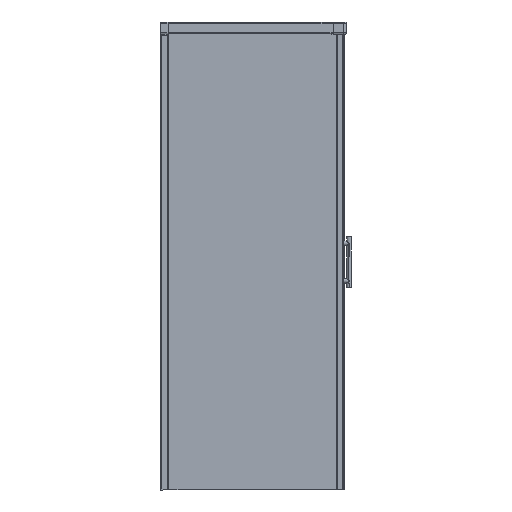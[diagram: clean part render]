
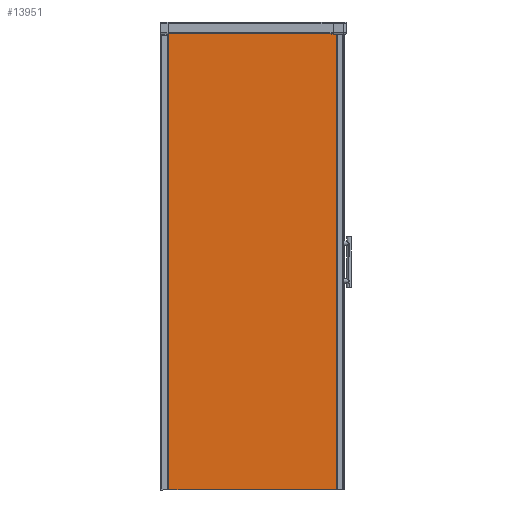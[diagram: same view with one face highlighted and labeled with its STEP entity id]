
A CAD part, front view. The second image highlights one B-rep face of the part: STEP entity #13951.
In plain terms, the highlighted planar face has unit normal (0, -1, 0).
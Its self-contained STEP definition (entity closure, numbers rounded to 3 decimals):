
#905=FACE_OUTER_BOUND($,#1659,.T.);
#1659=EDGE_LOOP($,(#10720,#10721,#10722,#10723,#10724,#10725,#10726,#10727,
#10728,#10729,#10730,#10731));
#2911=LINE($,#20620,#4281);
#3334=LINE($,#22126,#4704);
#3345=LINE($,#22154,#4715);
#3346=LINE($,#22157,#4716);
#3347=LINE($,#22159,#4717);
#3348=LINE($,#22161,#4718);
#3349=LINE($,#22163,#4719);
#3350=LINE($,#22165,#4720);
#3351=LINE($,#22167,#4721);
#3352=LINE($,#22169,#4722);
#3353=LINE($,#22171,#4723);
#3354=LINE($,#22172,#4724);
#4281=VECTOR($,#16553,721.266);
#4704=VECTOR($,#17748,1948.3);
#4715=VECTOR($,#17773,15.216);
#4716=VECTOR($,#17776,0.1);
#4717=VECTOR($,#17777,5.2);
#4718=VECTOR($,#17778,2.);
#4719=VECTOR($,#17779,699.55);
#4720=VECTOR($,#17780,0.5);
#4721=VECTOR($,#17781,1.693);
#4722=VECTOR($,#17782,4.9);
#4723=VECTOR($,#17783,0.393);
#4724=VECTOR($,#17784,1945.);
#5537=VERTEX_POINT($,#20617);
#5538=VERTEX_POINT($,#20619);
#5963=VERTEX_POINT($,#22124);
#5973=VERTEX_POINT($,#22152);
#5974=VERTEX_POINT($,#22156);
#5975=VERTEX_POINT($,#22158);
#5976=VERTEX_POINT($,#22160);
#5977=VERTEX_POINT($,#22162);
#5978=VERTEX_POINT($,#22164);
#5979=VERTEX_POINT($,#22166);
#5980=VERTEX_POINT($,#22168);
#5981=VERTEX_POINT($,#22170);
#7004=EDGE_CURVE($,#5537,#5538,#2911,.T.);
#7641=EDGE_CURVE($,#5963,#5537,#3334,.T.);
#7655=EDGE_CURVE($,#5973,#5963,#3345,.T.);
#7656=EDGE_CURVE($,#5974,#5973,#3346,.T.);
#7657=EDGE_CURVE($,#5975,#5974,#3347,.T.);
#7658=EDGE_CURVE($,#5976,#5975,#3348,.T.);
#7659=EDGE_CURVE($,#5977,#5976,#3349,.T.);
#7660=EDGE_CURVE($,#5977,#5978,#3350,.T.);
#7661=EDGE_CURVE($,#5978,#5979,#3351,.T.);
#7662=EDGE_CURVE($,#5979,#5980,#3352,.T.);
#7663=EDGE_CURVE($,#5980,#5981,#3353,.T.);
#7664=EDGE_CURVE($,#5981,#5538,#3354,.T.);
#10720=ORIENTED_EDGE($,*,*,#7641,.F.);
#10721=ORIENTED_EDGE($,*,*,#7655,.F.);
#10722=ORIENTED_EDGE($,*,*,#7656,.F.);
#10723=ORIENTED_EDGE($,*,*,#7657,.F.);
#10724=ORIENTED_EDGE($,*,*,#7658,.F.);
#10725=ORIENTED_EDGE($,*,*,#7659,.F.);
#10726=ORIENTED_EDGE($,*,*,#7660,.T.);
#10727=ORIENTED_EDGE($,*,*,#7661,.T.);
#10728=ORIENTED_EDGE($,*,*,#7662,.T.);
#10729=ORIENTED_EDGE($,*,*,#7663,.T.);
#10730=ORIENTED_EDGE($,*,*,#7664,.T.);
#10731=ORIENTED_EDGE($,*,*,#7004,.F.);
#12624=PLANE($,#14950);
#13951=ADVANCED_FACE($,(#905),#12624,.F.);
#14950=AXIS2_PLACEMENT_3D($,#22155,#17774,#17775);
#16553=DIRECTION($,(-1.,0.,0.));
#17748=DIRECTION($,(0.,0.,-1.));
#17773=DIRECTION($,(1.,0.,0.));
#17774=DIRECTION('center_axis',(0.,1.,0.));
#17775=DIRECTION('ref_axis',(-1.,0.,0.));
#17776=DIRECTION($,(0.,0.,-1.));
#17777=DIRECTION($,(1.,0.,0.));
#17778=DIRECTION($,(0.,0.,-1.));
#17779=DIRECTION($,(1.,0.,0.));
#17780=DIRECTION($,(0.,0.,-1.));
#17781=DIRECTION($,(-1.,0.,0.));
#17782=DIRECTION($,(0.,0.,-1.));
#17783=DIRECTION($,(1.,0.,0.));
#17784=DIRECTION($,(0.,0.,-1.));
#20617=CARTESIAN_POINT('',(1767.252,646.143,10.));
#20619=CARTESIAN_POINT('',(1045.986,646.143,10.));
#20620=CARTESIAN_POINT($,(1776.752,646.143,10.));
#22124=CARTESIAN_POINT('',(1767.252,646.143,1958.3));
#22126=CARTESIAN_POINT($,(1767.252,646.143,10.5));
#22152=CARTESIAN_POINT('',(1752.036,646.143,1958.3));
#22154=CARTESIAN_POINT($,(1779.102,646.143,1958.3));
#22155=CARTESIAN_POINT('Origin',(1776.752,646.143,11.));
#22156=CARTESIAN_POINT('',(1752.036,646.143,1958.4));
#22157=CARTESIAN_POINT($,(1752.036,646.143,984.65));
#22158=CARTESIAN_POINT('',(1746.836,646.143,1958.4));
#22159=CARTESIAN_POINT($,(1775.906,646.143,1958.4));
#22160=CARTESIAN_POINT('',(1746.836,646.143,1960.4));
#22161=CARTESIAN_POINT($,(1746.836,646.143,984.7));
#22162=CARTESIAN_POINT('',(1047.286,646.143,1960.4));
#22163=CARTESIAN_POINT($,(1764.294,646.143,1960.4));
#22164=CARTESIAN_POINT('',(1047.286,646.143,1959.9));
#22165=CARTESIAN_POINT($,(1047.286,646.143,997.95));
#22166=CARTESIAN_POINT('',(1045.593,646.143,1959.9));
#22167=CARTESIAN_POINT($,(1412.019,646.143,1959.9));
#22168=CARTESIAN_POINT('',(1045.593,646.143,1955.));
#22169=CARTESIAN_POINT($,(1045.593,646.143,982.2));
#22170=CARTESIAN_POINT('',(1045.986,646.143,1955.));
#22171=CARTESIAN_POINT($,(1403.207,646.143,1955.));
#22172=CARTESIAN_POINT($,(1045.986,646.143,10.5));
